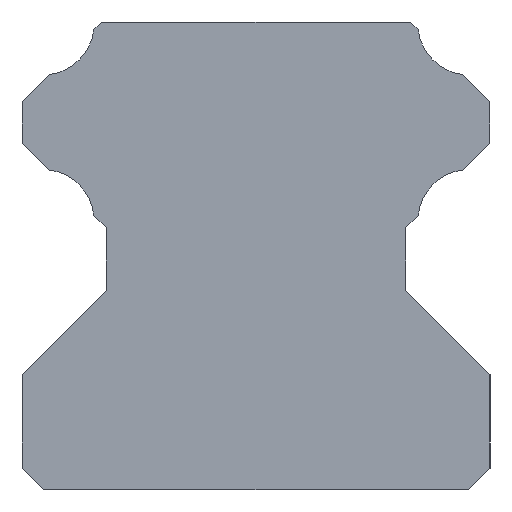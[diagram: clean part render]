
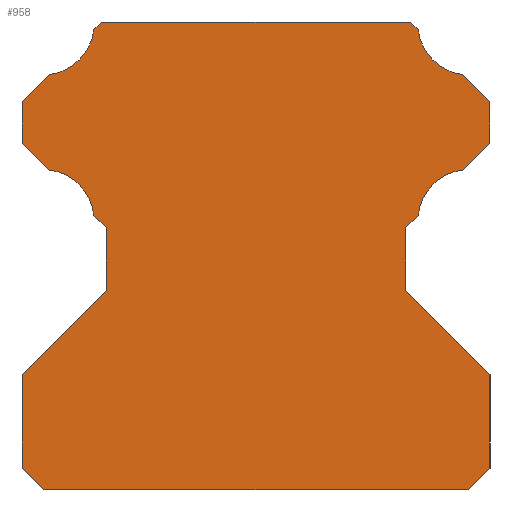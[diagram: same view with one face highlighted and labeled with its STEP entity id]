
A CAD part, left-side view. The second image highlights one B-rep face of the part: STEP entity #958.
In plain terms, the highlighted planar face has unit normal (-1, 0, 0).
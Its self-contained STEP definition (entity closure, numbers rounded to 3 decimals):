
#113=CARTESIAN_POINT('POINT11',(-20.,-7.5,
   3.699));
#114=VERTEX_POINT('VERTEX11',#113);
#121=CARTESIAN_POINT('POINT12',(-20.,-7.5,
   0.7));
#122=VERTEX_POINT('VERTEX12',#121);
#123=CARTESIAN_POINT('POS13',(-20.,-7.5,0.7)
   );
#124=DIRECTION('DIR19',(0.,0.,1.));
#125=VECTOR('VEC7',#124,1.);
#126=LINE('STRAIGHT7',#123,#125);
#127=EDGE_CURVE('EDGE15',#122,#114,#126,.T.);
#151=CARTESIAN_POINT('POINT14',(-20.,-4.8,
   6.4));
#152=VERTEX_POINT('VERTEX14',#151);
#159=CARTESIAN_POINT('POS18',(-20.,-7.5,
   3.699));
#160=DIRECTION('DIR25',(0.,0.707,
   0.707));
#161=VECTOR('VEC11',#160,1.);
#162=LINE('STRAIGHT11',#159,#161);
#163=EDGE_CURVE('EDGE19',#114,#152,#162,.T.);
#182=CARTESIAN_POINT('POINT16',(-20.,-4.8,
   8.409));
#183=VERTEX_POINT('VERTEX16',#182);
#190=CARTESIAN_POINT('POS22',(-20.,-4.8,
   6.4));
#191=DIRECTION('DIR30',(0.,0.,1.));
#192=VECTOR('VEC14',#191,1.);
#193=LINE('STRAIGHT14',#190,#192);
#194=EDGE_CURVE('EDGE22',#152,#183,#193,.T.);
#213=CARTESIAN_POINT('POINT18',(-20.,-5.201,
   8.81));
#214=VERTEX_POINT('VERTEX18',#213);
#221=CARTESIAN_POINT('POS26',(-20.,-4.8,
   8.409));
#222=DIRECTION('DIR35',(0.,-0.707,
   0.707));
#223=VECTOR('VEC17',#222,1.);
#224=LINE('STRAIGHT17',#221,#223);
#225=EDGE_CURVE('EDGE25',#183,#214,#224,.T.);
#245=CARTESIAN_POINT('POINT20',(-20.,-6.648,
   10.257));
#246=VERTEX_POINT('VERTEX20',#245);
#253=CARTESIAN_POINT('POS30',(-20.,-6.822,
   8.637));
#254=DIRECTION('DIR41',(1.,0.,0.));
#255=DIRECTION('DIR42',(0.,0.994,
   0.106));
#256=AXIS2_PLACEMENT_3D('AXIS12',#253,#254,#255);
#257=CIRCLE('ELLIPSE6',#256,1.63);
#258=EDGE_CURVE('EDGE28',#214,#246,#257,.T.);
#277=CARTESIAN_POINT('POINT22',(-20.,-7.5,
   11.109));
#278=VERTEX_POINT('VERTEX22',#277);
#285=CARTESIAN_POINT('POS34',(-20.,-6.648,
   10.257));
#286=DIRECTION('DIR47',(0.,-0.707,
   0.707));
#287=VECTOR('VEC21',#286,1.);
#288=LINE('STRAIGHT21',#285,#287);
#289=EDGE_CURVE('EDGE31',#246,#278,#288,.T.);
#308=CARTESIAN_POINT('POINT24',(-20.,-7.5,
   12.449));
#309=VERTEX_POINT('VERTEX24',#308);
#316=CARTESIAN_POINT('POS38',(-20.,-7.5,
   11.109));
#317=DIRECTION('DIR52',(0.,0.,1.));
#318=VECTOR('VEC24',#317,1.);
#319=LINE('STRAIGHT24',#316,#318);
#320=EDGE_CURVE('EDGE34',#278,#309,#319,.T.);
#339=CARTESIAN_POINT('POINT26',(-20.,-6.634,
   13.315));
#340=VERTEX_POINT('VERTEX26',#339);
#347=CARTESIAN_POINT('POS42',(-20.,-7.5,
   12.449));
#348=DIRECTION('DIR57',(0.,0.707,
   0.707));
#349=VECTOR('VEC27',#348,1.);
#350=LINE('STRAIGHT27',#347,#349);
#351=EDGE_CURVE('EDGE37',#309,#340,#350,.T.);
#371=CARTESIAN_POINT('POINT28',(-20.,-5.202,
   14.747));
#372=VERTEX_POINT('VERTEX28',#371);
#379=CARTESIAN_POINT('POS46',(-20.,-6.822,
   14.934));
#380=DIRECTION('DIR63',(1.,0.,0.));
#381=DIRECTION('DIR64',(0.,0.115,
   -0.993));
#382=AXIS2_PLACEMENT_3D('AXIS18',#379,#380,#381);
#383=CIRCLE('ELLIPSE8',#382,1.63);
#384=EDGE_CURVE('EDGE40',#340,#372,#383,.T.);
#406=CARTESIAN_POINT('POINT31',(-20.,6.634,
   13.315));
#407=VERTEX_POINT('VERTEX31',#406);
#414=CARTESIAN_POINT('POINT32',(-20.,5.202,
   14.747));
#415=VERTEX_POINT('VERTEX32',#414);
#416=CARTESIAN_POINT('POS50',(-20.,6.822,
   14.934));
#417=DIRECTION('DIR70',(1.,0.,0.));
#418=DIRECTION('DIR71',(0.,-0.993,
   -0.115));
#419=AXIS2_PLACEMENT_3D('AXIS21',#416,#417,#418);
#420=CIRCLE('ELLIPSE10',#419,1.63);
#421=EDGE_CURVE('EDGE43',#415,#407,#420,.T.);
#445=CARTESIAN_POINT('POINT34',(-20.,7.5,
   12.449));
#446=VERTEX_POINT('VERTEX34',#445);
#453=CARTESIAN_POINT('POS55',(-20.,6.634,
   13.315));
#454=DIRECTION('DIR77',(0.,0.707,
   -0.707));
#455=VECTOR('VEC33',#454,1.);
#456=LINE('STRAIGHT33',#453,#455);
#457=EDGE_CURVE('EDGE47',#407,#446,#456,.T.);
#476=CARTESIAN_POINT('POINT36',(-20.,7.5,
   11.109));
#477=VERTEX_POINT('VERTEX36',#476);
#484=CARTESIAN_POINT('POS59',(-20.,7.5,
   12.449));
#485=DIRECTION('DIR82',(0.,0.,-1.));
#486=VECTOR('VEC36',#485,1.);
#487=LINE('STRAIGHT36',#484,#486);
#488=EDGE_CURVE('EDGE50',#446,#477,#487,.T.);
#507=CARTESIAN_POINT('POINT38',(-20.,6.648,
   10.257));
#508=VERTEX_POINT('VERTEX38',#507);
#515=CARTESIAN_POINT('POS63',(-20.,7.5,
   11.109));
#516=DIRECTION('DIR87',(0.,-0.707,
   -0.707));
#517=VECTOR('VEC39',#516,1.);
#518=LINE('STRAIGHT39',#515,#517);
#519=EDGE_CURVE('EDGE53',#477,#508,#518,.T.);
#539=CARTESIAN_POINT('POINT40',(-20.,5.201,
   8.81));
#540=VERTEX_POINT('VERTEX40',#539);
#547=CARTESIAN_POINT('POS67',(-20.,6.822,
   8.637));
#548=DIRECTION('DIR93',(1.,0.,0.));
#549=DIRECTION('DIR94',(0.,-0.106,
   0.994));
#550=AXIS2_PLACEMENT_3D('AXIS27',#547,#548,#549);
#551=CIRCLE('ELLIPSE12',#550,1.63);
#552=EDGE_CURVE('EDGE56',#508,#540,#551,.T.);
#571=CARTESIAN_POINT('POINT42',(-20.,4.8,
   8.409));
#572=VERTEX_POINT('VERTEX42',#571);
#579=CARTESIAN_POINT('POS71',(-20.,5.201,
   8.81));
#580=DIRECTION('DIR99',(0.,-0.707,
   -0.707));
#581=VECTOR('VEC43',#580,1.);
#582=LINE('STRAIGHT43',#579,#581);
#583=EDGE_CURVE('EDGE59',#540,#572,#582,.T.);
#602=CARTESIAN_POINT('POINT44',(-20.,4.8,
   6.4));
#603=VERTEX_POINT('VERTEX44',#602);
#610=CARTESIAN_POINT('POS75',(-20.,4.8,
   8.409));
#611=DIRECTION('DIR104',(0.,0.,-1.));
#612=VECTOR('VEC46',#611,1.);
#613=LINE('STRAIGHT46',#610,#612);
#614=EDGE_CURVE('EDGE62',#572,#603,#613,.T.);
#633=CARTESIAN_POINT('POINT46',(-20.,7.5,
   3.699));
#634=VERTEX_POINT('VERTEX46',#633);
#641=CARTESIAN_POINT('POS79',(-20.,4.8,
   6.4));
#642=DIRECTION('DIR109',(0.,0.707,
   -0.707));
#643=VECTOR('VEC49',#642,1.);
#644=LINE('STRAIGHT49',#641,#643);
#645=EDGE_CURVE('EDGE65',#603,#634,#644,.T.);
#664=CARTESIAN_POINT('POINT48',(-20.,7.5,
   0.7));
#665=VERTEX_POINT('VERTEX48',#664);
#672=CARTESIAN_POINT('POS83',(-20.,7.5,
   3.699));
#673=DIRECTION('DIR114',(0.,0.,-1.));
#674=VECTOR('VEC52',#673,1.);
#675=LINE('STRAIGHT52',#672,#674);
#676=EDGE_CURVE('EDGE68',#634,#665,#675,.T.);
#695=CARTESIAN_POINT('POINT50',(-20.,6.8,
   0.));
#696=VERTEX_POINT('VERTEX50',#695);
#703=CARTESIAN_POINT('POS87',(-20.,7.5,
   0.7));
#704=DIRECTION('DIR119',(0.,-0.707,
   -0.707));
#705=VECTOR('VEC55',#704,1.);
#706=LINE('STRAIGHT55',#703,#705);
#707=EDGE_CURVE('EDGE71',#665,#696,#706,.T.);
#749=CARTESIAN_POINT('POINT54',(-20.,-6.8,
   0.));
#750=VERTEX_POINT('VERTEX54',#749);
#757=CARTESIAN_POINT('POS92',(-20.,6.8,
   0.));
#758=DIRECTION('DIR126',(0.,-1.,0.));
#759=VECTOR('VEC58',#758,1.);
#760=LINE('STRAIGHT58',#757,#759);
#761=EDGE_CURVE('EDGE76',#696,#750,#760,.T.);
#779=CARTESIAN_POINT('POS95',(-20.,-6.8,
   0.));
#780=DIRECTION('DIR130',(0.,-0.707,
   0.707));
#781=VECTOR('VEC60',#780,1.);
#782=LINE('STRAIGHT60',#779,#781);
#783=EDGE_CURVE('EDGE78',#750,#122,#782,.T.);
#892=CARTESIAN_POINT('POINT62',(-20.,-4.949,
   15.));
#893=VERTEX_POINT('VERTEX62',#892);
#900=CARTESIAN_POINT('POS107',(-20.,-5.202,
   14.747));
#901=DIRECTION('DIR149',(0.,0.707,
   0.707));
#902=VECTOR('VEC65',#901,1.);
#903=LINE('STRAIGHT65',#900,#902);
#904=EDGE_CURVE('EDGE89',#372,#893,#903,.T.);
#915=ORIENTED_EDGE('COEDGE127',*,*,#761,.T.);
#916=ORIENTED_EDGE('COEDGE128',*,*,#783,.T.);
#917=ORIENTED_EDGE('COEDGE129',*,*,#127,.T.);
#918=ORIENTED_EDGE('COEDGE130',*,*,#163,.T.);
#919=ORIENTED_EDGE('COEDGE131',*,*,#194,.T.);
#920=ORIENTED_EDGE('COEDGE132',*,*,#225,.T.);
#921=ORIENTED_EDGE('COEDGE133',*,*,#258,.T.);
#922=ORIENTED_EDGE('COEDGE134',*,*,#289,.T.);
#923=ORIENTED_EDGE('COEDGE135',*,*,#320,.T.);
#924=ORIENTED_EDGE('COEDGE136',*,*,#351,.T.);
#925=ORIENTED_EDGE('COEDGE137',*,*,#384,.T.);
#926=ORIENTED_EDGE('COEDGE138',*,*,#904,.T.);
#927=CARTESIAN_POINT('POINT63',(-20.,4.949,
   15.));
#928=VERTEX_POINT('VERTEX63',#927);
#929=CARTESIAN_POINT('POS109',(-20.,-4.949,
   15.));
#930=DIRECTION('DIR152',(0.,1.,0.));
#931=VECTOR('VEC66',#930,1.);
#932=LINE('STRAIGHT66',#929,#931);
#933=EDGE_CURVE('EDGE90',#893,#928,#932,.T.);
#934=ORIENTED_EDGE('COEDGE139',*,*,#933,.T.);
#935=CARTESIAN_POINT('POS110',(-20.,4.949,
   15.));
#936=DIRECTION('DIR153',(0.,0.707,
   -0.707));
#937=VECTOR('VEC67',#936,1.);
#938=LINE('STRAIGHT67',#935,#937);
#939=EDGE_CURVE('EDGE91',#928,#415,#938,.T.);
#940=ORIENTED_EDGE('COEDGE140',*,*,#939,.T.);
#941=ORIENTED_EDGE('COEDGE141',*,*,#421,.T.);
#942=ORIENTED_EDGE('COEDGE142',*,*,#457,.T.);
#943=ORIENTED_EDGE('COEDGE143',*,*,#488,.T.);
#944=ORIENTED_EDGE('COEDGE144',*,*,#519,.T.);
#945=ORIENTED_EDGE('COEDGE145',*,*,#552,.T.);
#946=ORIENTED_EDGE('COEDGE146',*,*,#583,.T.);
#947=ORIENTED_EDGE('COEDGE147',*,*,#614,.T.);
#948=ORIENTED_EDGE('COEDGE148',*,*,#645,.T.);
#949=ORIENTED_EDGE('COEDGE149',*,*,#676,.T.);
#950=ORIENTED_EDGE('COEDGE150',*,*,#707,.T.);
#951=EDGE_LOOP('NONE',(#915,#916,#917,#918,#919,#920,#921,#922,#923,#924
   ,#925,#926,#934,#940,#941,#942,#943,#944,#945,#946,#947,#948,#949,
   #950));
#952=FACE_BOUND('LOOP1',#951,.T.);
#953=CARTESIAN_POINT('POS111',(-20.,0.,
   7.233));
#954=DIRECTION('DIR154',(1.,0.,0.));
#955=DIRECTION('DIR155',(0.,1.,0.));
#956=AXIS2_PLACEMENT_3D('AXIS44',#953,#954,#955);
#957=PLANE('PLANE21',#956);
#958=ADVANCED_FACE('FACE31',(#952),#957,.F.);
